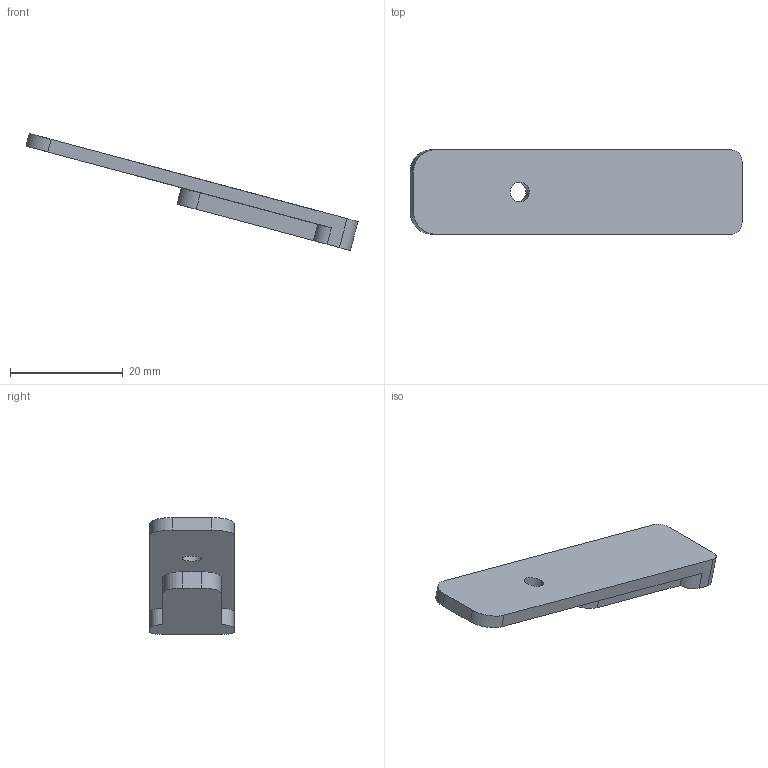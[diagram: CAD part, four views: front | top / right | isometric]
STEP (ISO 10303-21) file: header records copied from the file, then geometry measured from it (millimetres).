
FILE_DESCRIPTION(/* description */ (''),/* implementation_level */ '2;1');
FILE_NAME(/* name */ 'D:/CTRLPEW/Rifles/AR Mags and Mag Accessories/AR Magazines/S&W 15-22 25r Mags/Locking Plate .step',/* time_stamp */ '2021-03-05T21:54:47-07:00',/* author */ (''),/* organization */ (''),/* preprocessor_version */ 'ST-DEVELOPER v18.1',/* originating_system */ 'Autodesk Translation Framework v9.10.0.1330',/* authorisation */ '');
FILE_SCHEMA (('AUTOMOTIVE_DESIGN { 1 0 10303 214 3 1 1 }'));
Length unit declared in the file: millimetre
Products named in the file (1): 22 Mag
Bounding box: 58.79 x 14.95 x 20.71 mm (x, y, z)
Volume: 3076.2 mm3; surface area: 2384.1 mm2
Topology: 1 solids, 1 shells, 19 faces, 51 edges, 34 vertices
Faces by surface type: plane 10, cylinder 9
Full cylindrical faces by diameter (mm): 3.5 x1
Entity records: 647 total; most frequent: DIRECTION 109, CARTESIAN_POINT 105, ORIENTED_EDGE 102, EDGE_CURVE 51, AXIS2_PLACEMENT_3D 38, VERTEX_POINT 34, LINE 33, VECTOR 33
